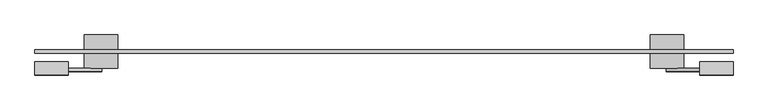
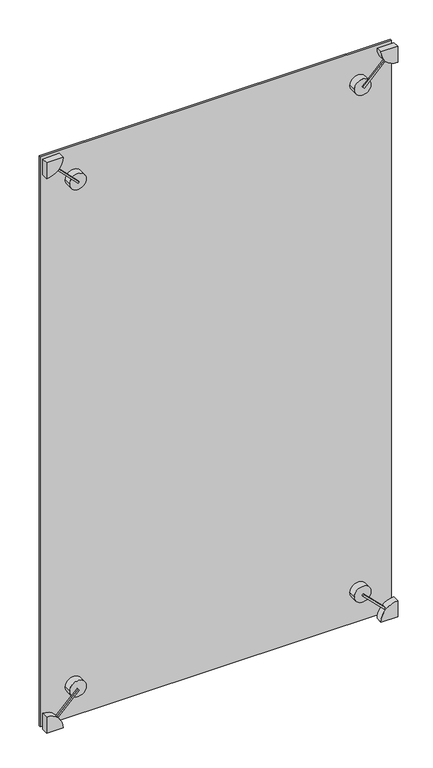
"""IFC4 building model written with IfcOpenShell, lengths in millimetres: plate geometry, 点爪式幕墙嵌板 : 点爪式幕墙嵌板."""

from ifc_helpers import new_model, si_unit, point, frame, frame_2d, origin, origin_with_axes, place, context, project, spatial, polyline, circle_curve, trimmed, segment, composite_curve, outline, extrude, source, transform, mapped, element, save
from ifc_brep_helpers import plane_surface, cylinder_surface, advanced_brep


def plate_ce9352c0(model_context):
    return source(origin(), model_context, "Body", "SolidModel", [
        extrude(outline(polyline([(0.0, -10.0), (0.0, 0.0), (10.0, 0.0), (10.0, -10.0), (0.0, -10.0)])), frame((-983.7667022, -60.0, 73.3043656), z_axis=(0.7071067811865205, 0.0, 0.7071067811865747), x_axis=(0.0, 1.0, 0.0)), (0.0, 0.0, 1.0), 181.331972),
        extrude(outline(composite_curve([segment(trimmed(circle_curve(frame_2d((0.0, -1050.0)), 100.0), [point((0.0, -950.0))], [point((100.0, -1050.0))], False, "CARTESIAN"), True, "CONTINUOUS"), segment(polyline([(100.0, -1050.0), (0.0, -1050.0), (0.0, -950.0)]), True, "CONTINUOUS")], self_intersect=False)), frame((0.0, -70.0, 0.0), z_axis=(0.0, 1.0, 0.0), x_axis=(0.0, 0.0, 1.0)), (0.0, 0.0, 1.0), 40.0),
        extrude(outline(composite_curve([segment(trimmed(circle_curve(frame_2d((199.0051024, -850.9948976)), 50.0), [point((199.0051024, -800.9948976))], [point((199.0051024, -900.9948976))], False, "CARTESIAN"), True, "CONTINUOUS"), segment(trimmed(circle_curve(frame_2d((199.0051024, -850.9948976)), 50.0), [point((199.0051024, -900.9948976))], [point((199.0051024, -800.9948976))], False, "CARTESIAN"), True, "CONTINUOUS")], self_intersect=False)), frame((0.0, -50.0, 0.0), z_axis=(0.0, 1.0, 0.0), x_axis=(0.0, 0.0, 1.0)), (0.0, 0.0, 1.0), 100.0),
        extrude(outline(polyline([(0.0, -181.3319719), (0.0, 0.0), (10.0, 0.0), (10.0, -181.3319719), (0.0, -181.3319719)])), frame((848.4745674, -60.0, 194.4543648), z_axis=(0.7071067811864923, 0.0, 0.7071067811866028), x_axis=(0.0, 1.0, 0.0)), (0.0, 0.0, 1.0), 10.0),
        extrude(outline(composite_curve([segment(polyline([(0.0, 950.0), (0.0, 1050.0), (100.0, 1050.0)]), True, "CONTINUOUS"), segment(trimmed(circle_curve(frame_2d((0.0, 1050.0)), 100.0), [point((100.0, 1050.0))], [point((0.0, 950.0))], False, "CARTESIAN"), True, "CONTINUOUS")], self_intersect=False)), frame((0.0, -70.0, 0.0), z_axis=(0.0, 1.0, 0.0), x_axis=(0.0, 0.0, 1.0)), (0.0, 0.0, 1.0), 40.0),
        extrude(outline(composite_curve([segment(trimmed(circle_curve(frame_2d((199.0051024, 850.9948976)), 50.0), [point((199.0051024, 800.9948976))], [point((199.0051024, 900.9948976))], False, "CARTESIAN"), True, "CONTINUOUS"), segment(trimmed(circle_curve(frame_2d((199.0051024, 850.9948976)), 50.0), [point((199.0051024, 900.9948976))], [point((199.0051024, 800.9948976))], False, "CARTESIAN"), True, "CONTINUOUS")], self_intersect=False)), frame((0.0, -50.0, 0.0), z_axis=(0.0, 1.0, 0.0), x_axis=(0.0, 0.0, 1.0)), (0.0, 0.0, 1.0), 100.0),
        extrude(outline(polyline([(0.0, -181.3319719), (0.0, 0.0), (10.0, 0.0), (10.0, -181.3319719), (0.0, -181.3319719)])), frame((-983.7667022, -60.0, 3526.6956344), z_axis=(0.7071067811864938, 0.0, 0.7071067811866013), x_axis=(0.0, 1.0, 0.0)), (0.0, 0.0, 1.0), 10.0),
        extrude(outline(composite_curve([segment(polyline([(3600.0, -950.0), (3600.0, -1050.0), (3500.0, -1050.0)]), True, "CONTINUOUS"), segment(trimmed(circle_curve(frame_2d((3600.0, -1050.0)), 100.0), [point((3500.0, -1050.0))], [point((3600.0, -950.0))], False, "CARTESIAN"), True, "CONTINUOUS")], self_intersect=False)), frame((0.0, -70.0, 0.0), z_axis=(0.0, 1.0, 0.0), x_axis=(0.0, 0.0, 1.0)), (0.0, 0.0, 1.0), 40.0),
        extrude(outline(composite_curve([segment(trimmed(circle_curve(frame_2d((3400.9948976, -850.9948976)), 50.0), [point((3400.9948976, -800.9948976))], [point((3400.9948976, -900.9948976))], False, "CARTESIAN"), True, "CONTINUOUS"), segment(trimmed(circle_curve(frame_2d((3400.9948976, -850.9948976)), 50.0), [point((3400.9948976, -900.9948976))], [point((3400.9948976, -800.9948976))], False, "CARTESIAN"), True, "CONTINUOUS")], self_intersect=False)), frame((0.0, -50.0, 0.0), z_axis=(0.0, 1.0, 0.0), x_axis=(0.0, 0.0, 1.0)), (0.0, 0.0, 1.0), 100.0),
        advanced_brep(
        [(800.9948976, -50.0, 3400.9948976), (900.9948976, -50.0, 3400.9948976), (889.7085497, -50.0, 3432.6374819), (855.5456352, -50.0, 3398.4745674), (848.4745674, -50.0, 3405.5456352), (882.6374819, -50.0, 3439.7085497), (800.9948976, 50.0, 3400.9948976), (900.9948976, 50.0, 3400.9948976), (848.4745674, -60.0, 3405.5456352), (855.5456352, -60.0, 3398.4745674), (982.9132994, -60.0, 3525.8422316), (975.8422316, -60.0, 3532.9132994), (975.8422316, -50.0, 3532.9132994), (982.9132994, -50.0, 3525.8422316), (950.0, -70.0, 3600.0), (1050.0, -70.0, 3500.0), (1050.0, -70.0, 3600.0), (950.0, -30.0, 3600.0), (1050.0, -30.0, 3600.0), (1050.0, -30.0, 3500.0)],
        [
            (0, 1, circle_curve(frame((850.9948976, -50.0, 3400.9948976), z_axis=(0.0, -1.0, 0.0), x_axis=(1.0, 0.0, 0.0)), 50.0)),
            (1, 2, circle_curve(frame((850.9948976, -50.0, 3400.9948976), z_axis=(0.0, -1.0, 0.0), x_axis=(1.0, 0.0, 0.0)), 50.0)),
            (2, 3),
            (3, 4),
            (4, 5),
            (5, 0, circle_curve(frame((850.9948976, -50.0, 3400.9948976), z_axis=(0.0, -1.0, 0.0), x_axis=(1.0, 0.0, 0.0)), 50.0)),
            (6, 7, circle_curve(frame((850.9948976, 50.0, 3400.9948976), z_axis=(0.0, 1.0, 0.0), x_axis=(1.0, 0.0, 0.0)), 50.0)),
            (7, 6, circle_curve(frame((850.9948976, 50.0, 3400.9948976), z_axis=(0.0, 1.0, 0.0), x_axis=(1.0, 0.0, 0.0)), 50.0)),
            (0, 6),
            (7, 1),
            (5, 2, circle_curve(frame((850.9948976, -50.0, 3400.9948976), z_axis=(0.0, 1.0, 0.0), x_axis=(1.0, 0.0, 0.0)), 50.0)),
            (8, 9),
            (9, 10),
            (10, 11, circle_curve(frame((1050.0, -60.0, 3600.0), z_axis=(0.0, 1.0, 0.0), x_axis=(1.0, 0.0, 0.0)), 100.0)),
            (11, 8),
            (5, 12),
            (12, 13, circle_curve(frame((1050.0, -50.0, 3600.0), z_axis=(0.0, -1.0, 0.0), x_axis=(1.0, 0.0, 0.0)), 100.0)),
            (13, 2),
            (4, 8),
            (11, 12),
            (3, 9),
            (13, 10),
            (14, 15, circle_curve(frame((1050.0, -70.0, 3600.0), z_axis=(0.0, -1.0, 0.0), x_axis=(1.0, 0.0, 0.0)), 100.0)),
            (15, 16),
            (16, 14),
            (17, 18),
            (18, 19),
            (19, 17, circle_curve(frame((1050.0, -30.0, 3600.0), z_axis=(0.0, 1.0, 0.0), x_axis=(1.0, 0.0, 0.0)), 100.0)),
            (14, 17),
            (19, 15),
            (18, 16),
        ],
        [
            plane_surface(frame((900.9948976, -50.0, 3400.9948976), z_axis=(0.0, -1.0, 0.0), x_axis=(0.0, 0.0, 1.0))),
            plane_surface(frame((900.9948976, 50.0, 3400.9948976), z_axis=(0.0, 1.0, 0.0), x_axis=(0.0, 0.0, -1.0))),
            cylinder_surface(frame((850.9948976, 50.0, 3400.9948976), z_axis=(0.0, -1.0, 0.0), x_axis=(1.0, 0.0, 0.0)), 50.0),
            plane_surface(frame((848.4745674, -60.0, 3405.5456352), z_axis=(0.0, -1.0000000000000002, 0.0), x_axis=(-0.7071067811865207, 0.0, -0.7071067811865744))),
            plane_surface(frame((848.4745674, -50.0, 3405.5456352), z_axis=(0.0, 1.0000000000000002, 0.0), x_axis=(0.7071067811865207, 0.0, 0.7071067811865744))),
            plane_surface(frame((976.6956344, -60.0, 3533.7667022), z_axis=(-0.7071067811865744, 0.0, 0.7071067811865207), x_axis=(0.0, 1.0, 0.0))),
            plane_surface(frame((848.4745674, -60.0, 3405.5456352), z_axis=(-0.7071067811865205, 0.0, -0.7071067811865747), x_axis=(0.0, 1.0, 0.0))),
            plane_surface(frame((855.5456352, -60.0, 3398.4745674), z_axis=(0.7071067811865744, 0.0, -0.7071067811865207), x_axis=(0.0, 1.0, 0.0))),
            plane_surface(frame((1150.0, -70.0, 3600.0), z_axis=(0.0, -1.0, 0.0), x_axis=(0.0, 0.0, 1.0))),
            plane_surface(frame((1150.0, -30.0, 3600.0), z_axis=(0.0, 1.0, 0.0), x_axis=(0.0, 0.0, -1.0))),
            cylinder_surface(frame((1050.0, -30.0, 3600.0), z_axis=(0.0, -1.0, 0.0), x_axis=(1.0, 0.0, 0.0)), 100.0),
            plane_surface(frame((1050.0, -70.0, 3500.0), z_axis=(1.0, 0.0, 0.0), x_axis=(0.0, 1.0, 0.0))),
            plane_surface(frame((1050.0, -70.0, 3600.0), z_axis=(0.0, 0.0, 1.0), x_axis=(0.0, 1.0, 0.0))),
        ],
        [
            (0, [[1, 2, 3, 4, 5, 6]]),
            (1, [[7, 8]]),
            (2, [[-1, 9, -8, 10]]),
            (2, [[-7, -9, -6, 11, -2, -10]]),
            (3, [[12, 13, 14, 15]]),
            (4, [[-11, 16, 17, 18]]),
            (5, [[19, -15, 20, -16, -5]]),
            (6, [[-12, -19, -4, 21]]),
            (7, [[-21, -3, -18, 22, -13]]),
            (8, [[23, 24, 25]]),
            (9, [[26, 27, 28]]),
            (10, [[-23, 29, -28, 30], [-14, -22, -17, -20]]),
            (11, [[-24, -30, -27, 31]]),
            (12, [[-25, -31, -26, -29]]),
        ],
    ),
        extrude(outline(polyline([(1050.0, 5.0), (1050.0, -5.0), (-1050.0, -5.0), (-1050.0, 5.0), (1050.0, 5.0)])), origin_with_axes(), (0.0, 0.0, 1.0), 3600.0),
    ])


if __name__ == "__main__":
    model = new_model("IFC4")
    model_context = context("Model", 3, world=origin())
    ifc_project = project(units=[si_unit("LENGTHUNIT", "METRE", prefix="MILLI")], contexts=[model_context])
    site = spatial("IfcSite", under=ifc_project)
    building = spatial("IfcBuilding", under=site)
    placement = place(None, origin())
    plate_shape = plate_ce9352c0(model_context)
    element("IfcPlate", 1, ObjectType="点爪式幕墙嵌板 : 点爪式幕墙嵌板", at=placement, inside=building, context=model_context, shape_type="MappedRepresentation", body=[
        mapped(plate_shape, transform((0.0, 0.0, 0.0), x_axis=(1.0, 0.0, 0.0), y_axis=(0.0, 1.0, 0.0), z_axis=(0.0, 0.0, 1.0))),
    ])
    save(model, "model.ifc")
